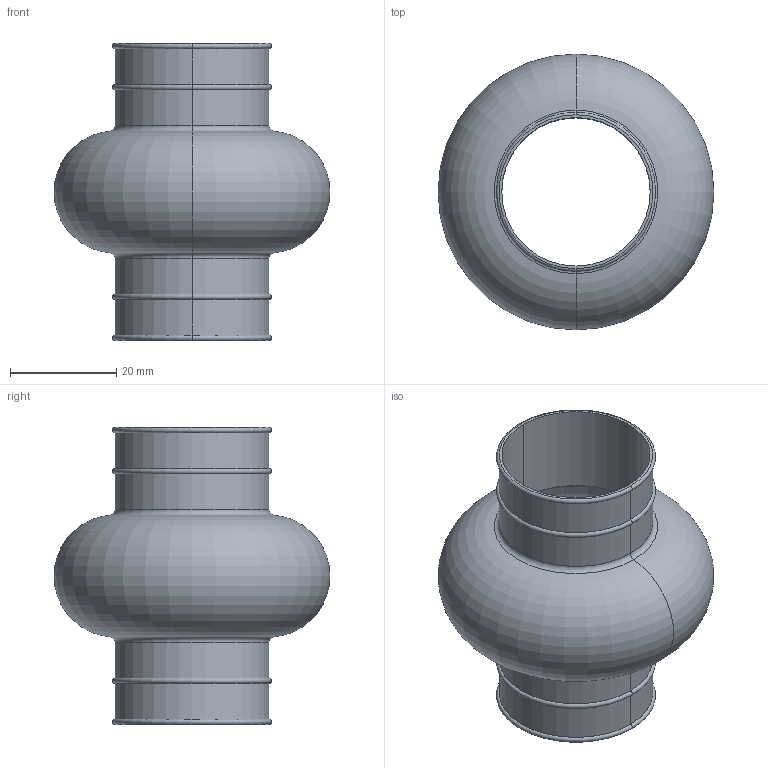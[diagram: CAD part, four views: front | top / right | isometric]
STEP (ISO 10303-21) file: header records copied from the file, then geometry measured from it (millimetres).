
FILE_DESCRIPTION (( 'STEP AP203' ), '1' );
FILE_NAME ('65280.W0028.step', '2018-06-20T18:11:57', ( '' ), ( '' ), 'SwSTEP 2.0', 'SolidWorks 2017', '' );
FILE_SCHEMA (( 'CONFIG_CONTROL_DESIGN' ));
Length unit declared in the file: millimetre
Products named in the file (1): 65280.W0028
Bounding box: 52 x 52 x 56 mm (x, y, z)
Volume: 4107.9 mm3; surface area: 15951.1 mm2
Topology: 1 solids, 1 shells, 30 faces, 60 edges, 32 vertices
Faces by surface type: torus 16, cylinder 12, plane 2
Entity records: 861 total; most frequent: DIRECTION 170, CARTESIAN_POINT 123, ORIENTED_EDGE 120, AXIS2_PLACEMENT_3D 79, EDGE_CURVE 60, CIRCLE 48, VERTEX_POINT 32, EDGE_LOOP 32
